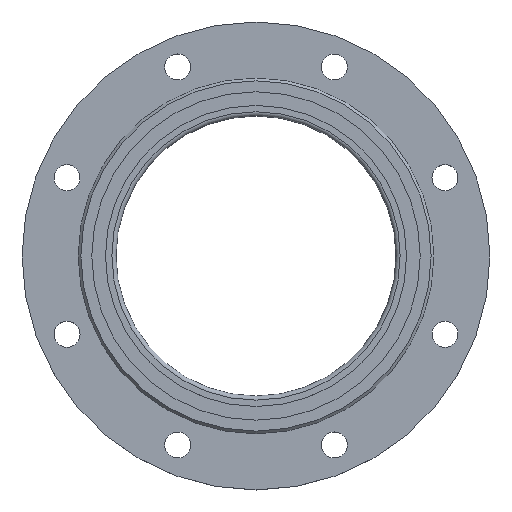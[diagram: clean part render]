
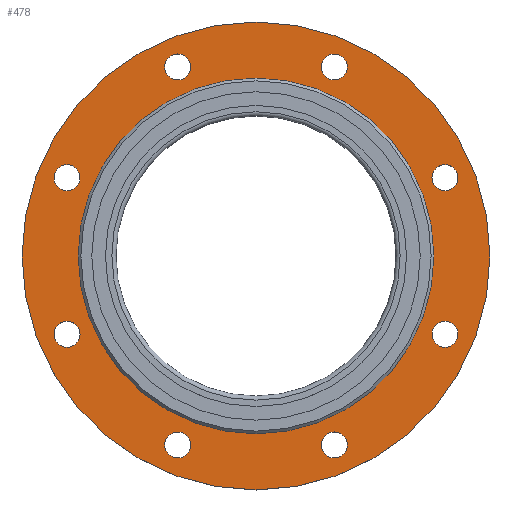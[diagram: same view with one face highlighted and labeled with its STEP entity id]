
A CAD part, top view. The second image highlights one B-rep face of the part: STEP entity #478.
In plain terms, the highlighted planar face has unit normal (0, 0, 1).
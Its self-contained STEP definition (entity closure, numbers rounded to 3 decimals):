
#64=FACE_BOUND('',#122,.T.);
#65=FACE_BOUND('',#123,.T.);
#66=FACE_BOUND('',#124,.T.);
#67=FACE_BOUND('',#125,.T.);
#68=FACE_BOUND('',#126,.T.);
#69=FACE_BOUND('',#127,.T.);
#70=FACE_BOUND('',#128,.T.);
#71=FACE_BOUND('',#129,.T.);
#72=FACE_BOUND('',#130,.T.);
#96=FACE_OUTER_BOUND('',#121,.T.);
#121=EDGE_LOOP('',(#384,#385));
#122=EDGE_LOOP('',(#386,#387));
#123=EDGE_LOOP('',(#388,#389));
#124=EDGE_LOOP('',(#390,#391));
#125=EDGE_LOOP('',(#392,#393));
#126=EDGE_LOOP('',(#394,#395));
#127=EDGE_LOOP('',(#396,#397));
#128=EDGE_LOOP('',(#398,#399));
#129=EDGE_LOOP('',(#400,#401));
#130=EDGE_LOOP('',(#402,#403));
#162=CIRCLE('',#524,9.5);
#163=CIRCLE('',#525,9.5);
#165=CIRCLE('',#528,9.5);
#166=CIRCLE('',#529,9.5);
#168=CIRCLE('',#532,9.5);
#169=CIRCLE('',#533,9.5);
#171=CIRCLE('',#536,9.5);
#172=CIRCLE('',#537,9.5);
#174=CIRCLE('',#540,9.5);
#175=CIRCLE('',#541,9.5);
#177=CIRCLE('',#544,9.5);
#178=CIRCLE('',#545,9.5);
#180=CIRCLE('',#548,9.5);
#181=CIRCLE('',#549,9.5);
#183=CIRCLE('',#552,9.5);
#184=CIRCLE('',#553,9.5);
#186=CIRCLE('',#556,171.);
#187=CIRCLE('',#557,171.);
#188=CIRCLE('',#558,130.);
#189=CIRCLE('',#559,130.);
#215=VERTEX_POINT('',#782);
#216=VERTEX_POINT('',#783);
#218=VERTEX_POINT('',#790);
#219=VERTEX_POINT('',#791);
#221=VERTEX_POINT('',#798);
#222=VERTEX_POINT('',#799);
#224=VERTEX_POINT('',#806);
#225=VERTEX_POINT('',#807);
#227=VERTEX_POINT('',#814);
#228=VERTEX_POINT('',#815);
#230=VERTEX_POINT('',#822);
#231=VERTEX_POINT('',#823);
#233=VERTEX_POINT('',#830);
#234=VERTEX_POINT('',#831);
#236=VERTEX_POINT('',#838);
#237=VERTEX_POINT('',#839);
#239=VERTEX_POINT('',#846);
#240=VERTEX_POINT('',#847);
#241=VERTEX_POINT('',#850);
#242=VERTEX_POINT('',#851);
#268=EDGE_CURVE('',#215,#216,#162,.T.);
#269=EDGE_CURVE('',#216,#215,#163,.T.);
#272=EDGE_CURVE('',#218,#219,#165,.T.);
#273=EDGE_CURVE('',#219,#218,#166,.T.);
#276=EDGE_CURVE('',#221,#222,#168,.T.);
#277=EDGE_CURVE('',#222,#221,#169,.T.);
#280=EDGE_CURVE('',#224,#225,#171,.T.);
#281=EDGE_CURVE('',#225,#224,#172,.T.);
#284=EDGE_CURVE('',#227,#228,#174,.T.);
#285=EDGE_CURVE('',#228,#227,#175,.T.);
#288=EDGE_CURVE('',#230,#231,#177,.T.);
#289=EDGE_CURVE('',#231,#230,#178,.T.);
#292=EDGE_CURVE('',#233,#234,#180,.T.);
#293=EDGE_CURVE('',#234,#233,#181,.T.);
#296=EDGE_CURVE('',#236,#237,#183,.T.);
#297=EDGE_CURVE('',#237,#236,#184,.T.);
#300=EDGE_CURVE('',#239,#240,#186,.T.);
#301=EDGE_CURVE('',#240,#239,#187,.T.);
#302=EDGE_CURVE('',#241,#242,#188,.T.);
#303=EDGE_CURVE('',#242,#241,#189,.T.);
#384=ORIENTED_EDGE('',*,*,#300,.F.);
#385=ORIENTED_EDGE('',*,*,#301,.F.);
#386=ORIENTED_EDGE('',*,*,#268,.T.);
#387=ORIENTED_EDGE('',*,*,#269,.T.);
#388=ORIENTED_EDGE('',*,*,#272,.T.);
#389=ORIENTED_EDGE('',*,*,#273,.T.);
#390=ORIENTED_EDGE('',*,*,#276,.T.);
#391=ORIENTED_EDGE('',*,*,#277,.T.);
#392=ORIENTED_EDGE('',*,*,#280,.T.);
#393=ORIENTED_EDGE('',*,*,#281,.T.);
#394=ORIENTED_EDGE('',*,*,#284,.T.);
#395=ORIENTED_EDGE('',*,*,#285,.T.);
#396=ORIENTED_EDGE('',*,*,#288,.T.);
#397=ORIENTED_EDGE('',*,*,#289,.T.);
#398=ORIENTED_EDGE('',*,*,#292,.T.);
#399=ORIENTED_EDGE('',*,*,#293,.T.);
#400=ORIENTED_EDGE('',*,*,#296,.T.);
#401=ORIENTED_EDGE('',*,*,#297,.T.);
#402=ORIENTED_EDGE('',*,*,#302,.T.);
#403=ORIENTED_EDGE('',*,*,#303,.T.);
#462=PLANE('',#555);
#478=ADVANCED_FACE('',(#96,#64,#65,#66,#67,#68,#69,#70,#71,#72),#462,.F.);
#524=AXIS2_PLACEMENT_3D('',#784,#619,#620);
#525=AXIS2_PLACEMENT_3D('',#785,#621,#622);
#528=AXIS2_PLACEMENT_3D('',#792,#628,#629);
#529=AXIS2_PLACEMENT_3D('',#793,#630,#631);
#532=AXIS2_PLACEMENT_3D('',#800,#637,#638);
#533=AXIS2_PLACEMENT_3D('',#801,#639,#640);
#536=AXIS2_PLACEMENT_3D('',#808,#646,#647);
#537=AXIS2_PLACEMENT_3D('',#809,#648,#649);
#540=AXIS2_PLACEMENT_3D('',#816,#655,#656);
#541=AXIS2_PLACEMENT_3D('',#817,#657,#658);
#544=AXIS2_PLACEMENT_3D('',#824,#664,#665);
#545=AXIS2_PLACEMENT_3D('',#825,#666,#667);
#548=AXIS2_PLACEMENT_3D('',#832,#673,#674);
#549=AXIS2_PLACEMENT_3D('',#833,#675,#676);
#552=AXIS2_PLACEMENT_3D('',#840,#682,#683);
#553=AXIS2_PLACEMENT_3D('',#841,#684,#685);
#555=AXIS2_PLACEMENT_3D('',#845,#689,#690);
#556=AXIS2_PLACEMENT_3D('',#848,#691,#692);
#557=AXIS2_PLACEMENT_3D('',#849,#693,#694);
#558=AXIS2_PLACEMENT_3D('',#852,#695,#696);
#559=AXIS2_PLACEMENT_3D('',#853,#697,#698);
#619=DIRECTION('center_axis',(0.,0.,-1.));
#620=DIRECTION('ref_axis',(0.707,-0.707,0.));
#621=DIRECTION('center_axis',(0.,0.,-1.));
#622=DIRECTION('ref_axis',(0.707,-0.707,0.));
#628=DIRECTION('center_axis',(0.,0.,-1.));
#629=DIRECTION('ref_axis',(0.,-1.,0.));
#630=DIRECTION('center_axis',(0.,0.,-1.));
#631=DIRECTION('ref_axis',(0.,-1.,0.));
#637=DIRECTION('center_axis',(0.,0.,-1.));
#638=DIRECTION('ref_axis',(-0.707,-0.707,0.));
#639=DIRECTION('center_axis',(0.,0.,-1.));
#640=DIRECTION('ref_axis',(-0.707,-0.707,0.));
#646=DIRECTION('center_axis',(0.,0.,-1.));
#647=DIRECTION('ref_axis',(-1.,0.,0.));
#648=DIRECTION('center_axis',(0.,0.,-1.));
#649=DIRECTION('ref_axis',(-1.,0.,0.));
#655=DIRECTION('center_axis',(0.,0.,-1.));
#656=DIRECTION('ref_axis',(-0.707,0.707,0.));
#657=DIRECTION('center_axis',(0.,0.,-1.));
#658=DIRECTION('ref_axis',(-0.707,0.707,0.));
#664=DIRECTION('center_axis',(0.,0.,-1.));
#665=DIRECTION('ref_axis',(0.,1.,0.));
#666=DIRECTION('center_axis',(0.,0.,-1.));
#667=DIRECTION('ref_axis',(0.,1.,0.));
#673=DIRECTION('center_axis',(0.,0.,-1.));
#674=DIRECTION('ref_axis',(0.707,0.707,0.));
#675=DIRECTION('center_axis',(0.,0.,-1.));
#676=DIRECTION('ref_axis',(0.707,0.707,0.));
#682=DIRECTION('center_axis',(0.,0.,-1.));
#683=DIRECTION('ref_axis',(1.,0.,0.));
#684=DIRECTION('center_axis',(0.,0.,-1.));
#685=DIRECTION('ref_axis',(1.,0.,0.));
#689=DIRECTION('center_axis',(0.,0.,-1.));
#690=DIRECTION('ref_axis',(-1.,0.,0.));
#691=DIRECTION('center_axis',(0.,0.,-1.));
#692=DIRECTION('ref_axis',(1.,0.,0.));
#693=DIRECTION('center_axis',(0.,0.,-1.));
#694=DIRECTION('ref_axis',(1.,0.,0.));
#695=DIRECTION('center_axis',(0.,0.,-1.));
#696=DIRECTION('ref_axis',(1.,0.,0.));
#697=DIRECTION('center_axis',(0.,0.,-1.));
#698=DIRECTION('ref_axis',(1.,0.,0.));
#782=CARTESIAN_POINT('',(63.929,131.402,-2.));
#783=CARTESIAN_POINT('',(50.494,144.838,-2.));
#784=CARTESIAN_POINT('Origin',(57.211,138.12,-2.));
#785=CARTESIAN_POINT('Origin',(57.211,138.12,-2.));
#790=CARTESIAN_POINT('',(138.12,47.711,-2.));
#791=CARTESIAN_POINT('',(138.12,66.711,-2.));
#792=CARTESIAN_POINT('Origin',(138.12,57.211,-2.));
#793=CARTESIAN_POINT('Origin',(138.12,57.211,-2.));
#798=CARTESIAN_POINT('',(131.402,-63.929,-2.));
#799=CARTESIAN_POINT('',(144.838,-50.494,-2.));
#800=CARTESIAN_POINT('Origin',(138.12,-57.211,-2.));
#801=CARTESIAN_POINT('Origin',(138.12,-57.211,-2.));
#806=CARTESIAN_POINT('',(47.711,-138.12,-2.));
#807=CARTESIAN_POINT('',(66.711,-138.12,-2.));
#808=CARTESIAN_POINT('Origin',(57.211,-138.12,-2.));
#809=CARTESIAN_POINT('Origin',(57.211,-138.12,-2.));
#814=CARTESIAN_POINT('',(-63.929,-131.402,-2.));
#815=CARTESIAN_POINT('',(-50.494,-144.838,-2.));
#816=CARTESIAN_POINT('Origin',(-57.211,-138.12,-2.));
#817=CARTESIAN_POINT('Origin',(-57.211,-138.12,-2.));
#822=CARTESIAN_POINT('',(-138.12,-47.711,-2.));
#823=CARTESIAN_POINT('',(-138.12,-66.711,-2.));
#824=CARTESIAN_POINT('Origin',(-138.12,-57.211,-2.));
#825=CARTESIAN_POINT('Origin',(-138.12,-57.211,-2.));
#830=CARTESIAN_POINT('',(-131.402,63.929,-2.));
#831=CARTESIAN_POINT('',(-144.838,50.494,-2.));
#832=CARTESIAN_POINT('Origin',(-138.12,57.211,-2.));
#833=CARTESIAN_POINT('Origin',(-138.12,57.211,-2.));
#838=CARTESIAN_POINT('',(-47.711,138.12,-2.));
#839=CARTESIAN_POINT('',(-66.711,138.12,-2.));
#840=CARTESIAN_POINT('Origin',(-57.211,138.12,-2.));
#841=CARTESIAN_POINT('Origin',(-57.211,138.12,-2.));
#845=CARTESIAN_POINT('Origin',(130.,0.,-2.));
#846=CARTESIAN_POINT('',(171.,0.,-2.));
#847=CARTESIAN_POINT('',(-171.,0.,-2.));
#848=CARTESIAN_POINT('Origin',(0.,0.,-2.));
#849=CARTESIAN_POINT('Origin',(0.,0.,-2.));
#850=CARTESIAN_POINT('',(130.,0.,-2.));
#851=CARTESIAN_POINT('',(-130.,0.,-2.));
#852=CARTESIAN_POINT('Origin',(0.,0.,-2.));
#853=CARTESIAN_POINT('Origin',(0.,0.,-2.));
